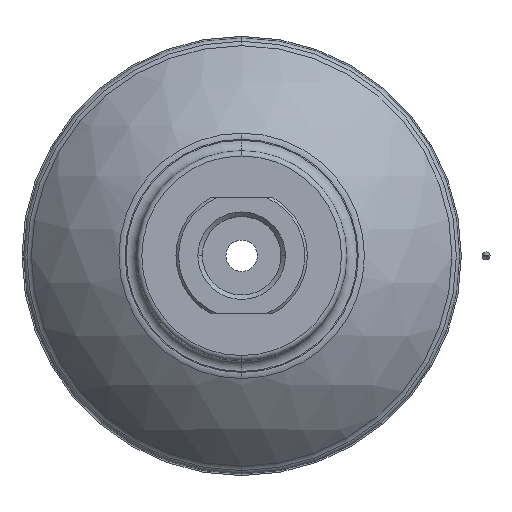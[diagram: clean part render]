
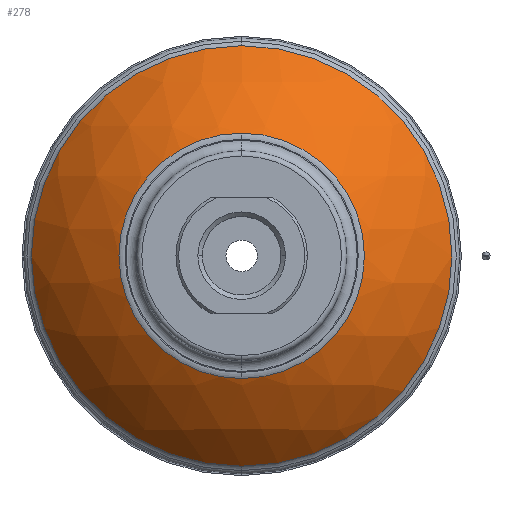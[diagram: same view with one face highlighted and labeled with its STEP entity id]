
A CAD part, top view. The second image highlights one B-rep face of the part: STEP entity #278.
In plain terms, the highlighted spherical face has radius 50 mm.
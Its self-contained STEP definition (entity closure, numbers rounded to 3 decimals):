
#278=ADVANCED_FACE('',(#599,#600),#601,.T.);
#599=FACE_OUTER_BOUND('',#965,.T.);
#600=FACE_BOUND('',#966,.T.);
#601=SPHERICAL_SURFACE('',#967,50.);
#965=EDGE_LOOP('',(#1722,#1723,#1724));
#966=EDGE_LOOP('',(#1725,#1726));
#967=AXIS2_PLACEMENT_3D('',#1727,#1728,#1729);
#1722=ORIENTED_EDGE('',*,*,#2419,.F.);
#1723=ORIENTED_EDGE('',*,*,#2420,.F.);
#1724=ORIENTED_EDGE('',*,*,#2296,.F.);
#1725=ORIENTED_EDGE('',*,*,#2417,.T.);
#1726=ORIENTED_EDGE('',*,*,#2303,.T.);
#1727=CARTESIAN_POINT('',(0.0,0.,-27.));
#1728=DIRECTION('',(0.0,-1.0,0.));
#1729=DIRECTION('',(1.0,0.0,0.0));
#2296=EDGE_CURVE('',#2798,#2800,#2801,.T.);
#2303=EDGE_CURVE('',#2806,#2810,#2812,.T.);
#2417=EDGE_CURVE('',#2810,#2806,#2975,.T.);
#2419=EDGE_CURVE('',#2977,#2798,#2978,.T.);
#2420=EDGE_CURVE('',#2800,#2977,#2979,.T.);
#2798=VERTEX_POINT('',#3393);
#2800=VERTEX_POINT('',#3395);
#2801=CIRCLE('',#3396,40.016);
#2806=VERTEX_POINT('',#3401);
#2810=VERTEX_POINT('',#3405);
#2812=CIRCLE('',#3407,23.354);
#2975=CIRCLE('',#3630,23.354);
#2977=VERTEX_POINT('',#3632);
#2978=CIRCLE('',#3633,40.016);
#2979=CIRCLE('',#3634,40.016);
#3393=CARTESIAN_POINT('',(0.,-40.016,2.979));
#3395=CARTESIAN_POINT('',(0.,40.016,2.979));
#3396=AXIS2_PLACEMENT_3D('',#4117,#4118,#4119);
#3401=CARTESIAN_POINT('',(0.,23.354,17.211));
#3405=CARTESIAN_POINT('',(0.,-23.354,17.211));
#3407=AXIS2_PLACEMENT_3D('',#4135,#4136,#4137);
#3630=AXIS2_PLACEMENT_3D('',#4315,#4316,#4317);
#3632=CARTESIAN_POINT('',(40.016,0.,2.979));
#3633=AXIS2_PLACEMENT_3D('',#4318,#4319,#4320);
#3634=AXIS2_PLACEMENT_3D('',#4321,#4322,#4323);
#4117=CARTESIAN_POINT('',(0.0,0.,2.979));
#4118=DIRECTION('',(0.0,0.,-1.0));
#4119=DIRECTION('',(1.0,0.0,0.0));
#4135=CARTESIAN_POINT('',(0.0,0.,17.211));
#4136=DIRECTION('',(0.0,0.,-1.0));
#4137=DIRECTION('',(1.0,0.0,0.0));
#4315=CARTESIAN_POINT('',(0.0,0.,17.211));
#4316=DIRECTION('',(0.0,0.,-1.0));
#4317=DIRECTION('',(1.0,0.0,0.0));
#4318=CARTESIAN_POINT('',(0.0,0.,2.979));
#4319=DIRECTION('',(0.0,0.,-1.0));
#4320=DIRECTION('',(1.0,0.0,0.0));
#4321=CARTESIAN_POINT('',(0.0,0.,2.979));
#4322=DIRECTION('',(0.0,0.,-1.0));
#4323=DIRECTION('',(1.0,0.0,0.0));
